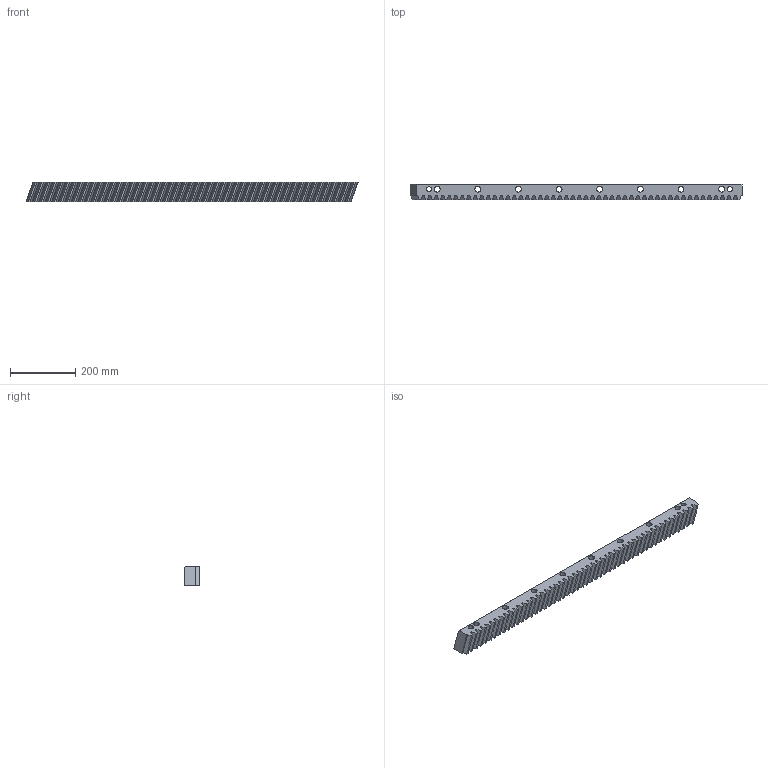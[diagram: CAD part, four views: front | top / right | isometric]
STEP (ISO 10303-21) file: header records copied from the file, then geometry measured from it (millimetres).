
FILE_DESCRIPTION(/* description */ (''),/* implementation_level */ '2;1');
FILE_NAME(/* name */ 'BL-1HR26R060100H.ipt',/* time_stamp */ '2019-06-18T08:37:56+02:00',/* author */ ('VĂ©gh MĂˇtĂ©'),/* organization */ ('Bearing Kft'),/* preprocessor_version */ 'ST-DEVELOPER v16.7',/* originating_system */ 'DEX',/* authorisation */ $);
FILE_SCHEMA (('AUTOMOTIVE_DESIGN {1 0 10303 214 3 1 1}'));
Length unit declared in the file: millimetre
Products named in the file (1): BL-1HR26R060100H.ipt
Bounding box: 1020.93 x 49 x 59 mm (x, y, z)
Volume: 2329425.9 mm3; surface area: 296004.3 mm2
Topology: 1 solids, 1 shells, 675 faces, 1818 edges, 1212 vertices
Faces by surface type: plane 475, bspline 181, cylinder 19
Full cylindrical faces by diameter (mm): 15.7 x2, 18 x8, 26 x8
Entity records: 31464 total; most frequent: CARTESIAN_POINT 10434, ORIENTED_EDGE 3578, DIRECTION 2855, EDGE_CURVE 1789, LINE 1389, VECTOR 1389, VERTEX_POINT 1212, EDGE_LOOP 791
